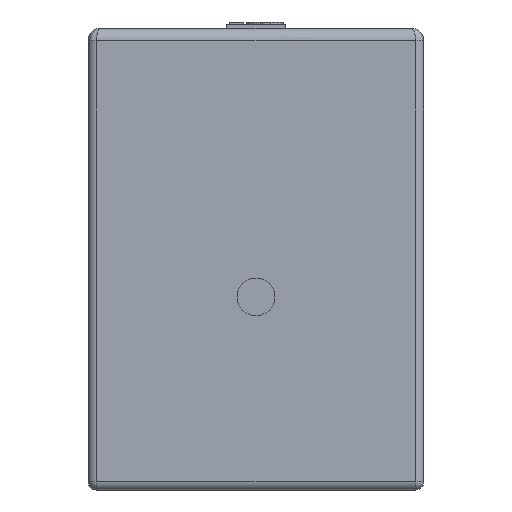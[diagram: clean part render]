
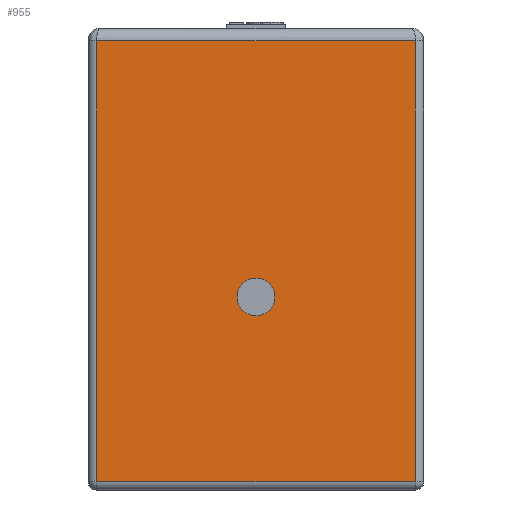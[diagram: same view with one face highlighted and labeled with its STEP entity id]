
A CAD part, front view. The second image highlights one B-rep face of the part: STEP entity #955.
In plain terms, the highlighted planar face has unit normal (0, -1, 0).
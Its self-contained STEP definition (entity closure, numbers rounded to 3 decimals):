
#40=FACE_BOUND('',#216,.T.);
#49=CIRCLE('',#1002,4.5);
#150=FACE_OUTER_BOUND('',#215,.T.);
#215=EDGE_LOOP('',(#804,#805,#806,#807));
#216=EDGE_LOOP('',(#808));
#279=LINE('',#1611,#359);
#281=LINE('',#1614,#361);
#288=LINE('',#1696,#368);
#295=LINE('',#1709,#375);
#359=VECTOR('',#1285,10.);
#361=VECTOR('',#1289,10.);
#368=VECTOR('',#1314,10.);
#375=VECTOR('',#1333,10.);
#401=VERTEX_POINT('',#1419);
#426=VERTEX_POINT('',#1498);
#432=VERTEX_POINT('',#1512);
#440=VERTEX_POINT('',#1604);
#447=VERTEX_POINT('',#1689);
#485=EDGE_CURVE('',#401,#401,#49,.T.);
#545=EDGE_CURVE('',#440,#432,#279,.T.);
#547=EDGE_CURVE('',#432,#426,#281,.T.);
#560=EDGE_CURVE('',#426,#447,#288,.T.);
#567=EDGE_CURVE('',#447,#440,#295,.T.);
#804=ORIENTED_EDGE('',*,*,#545,.F.);
#805=ORIENTED_EDGE('',*,*,#567,.F.);
#806=ORIENTED_EDGE('',*,*,#560,.F.);
#807=ORIENTED_EDGE('',*,*,#547,.F.);
#808=ORIENTED_EDGE('',*,*,#485,.T.);
#838=PLANE('',#1072);
#955=ADVANCED_FACE('',(#150,#40),#838,.T.);
#1002=AXIS2_PLACEMENT_3D('',#1420,#1149,#1150);
#1072=AXIS2_PLACEMENT_3D('',#1714,#1341,#1342);
#1149=DIRECTION('center_axis',(0.,1.,0.));
#1150=DIRECTION('ref_axis',(1.,0.,0.));
#1285=DIRECTION('',(0.,0.,-1.));
#1289=DIRECTION('',(-1.,0.,0.));
#1314=DIRECTION('',(0.,0.,1.));
#1333=DIRECTION('',(1.,0.,0.));
#1341=DIRECTION('center_axis',(0.,-1.,0.));
#1342=DIRECTION('ref_axis',(1.,0.,0.));
#1419=CARTESIAN_POINT('',(-4.5,-625.,46.));
#1420=CARTESIAN_POINT('Origin',(0.,-625.,46.));
#1498=CARTESIAN_POINT('',(-38.,-625.,2.));
#1512=CARTESIAN_POINT('',(38.,-625.,2.));
#1604=CARTESIAN_POINT('',(38.,-625.,107.));
#1611=CARTESIAN_POINT('',(38.,-625.,0.));
#1614=CARTESIAN_POINT('',(-20.,-625.,2.));
#1689=CARTESIAN_POINT('',(-38.,-625.,107.));
#1696=CARTESIAN_POINT('',(-38.,-625.,0.));
#1709=CARTESIAN_POINT('',(-20.,-625.,107.));
#1714=CARTESIAN_POINT('Origin',(-40.,-625.,0.));
